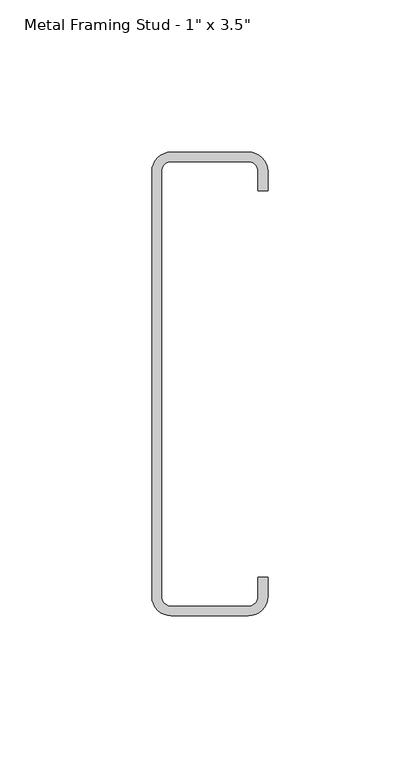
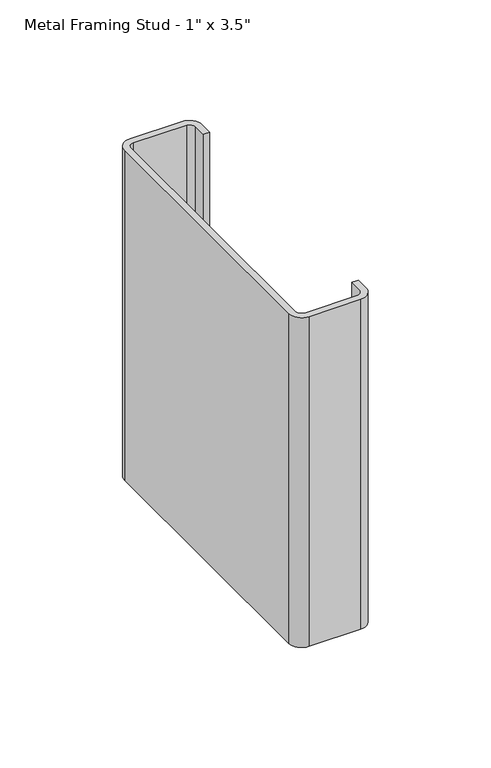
"""IFC4 building model written with IfcOpenShell, lengths in millimetres: proxy geometry."""

from ifc_helpers import new_model, si_unit, point, frame, frame_2d, origin, place, context, project, spatial, polyline, circle_curve, trimmed, segment, composite_curve, outline, extrude, source, transform, mapped, element, save


def proxy_e2cf066e(model_context):
    return source(origin(), model_context, "Body", "SweptSolid", [
        extrude(outline(composite_curve([segment(polyline([(19.05, 63.5), (15.875, 63.5), (15.875, 70.2679713)]), True, "CONTINUOUS"), segment(trimmed(circle_curve(frame_2d((12.7, 69.85)), 3.2023936), [point((15.875, 70.2679713))], [point((13.1179713, 73.025))], True, "CARTESIAN"), True, "CONTINUOUS"), segment(polyline([(13.1179713, 73.025), (-13.1179713, 73.025)]), True, "CONTINUOUS"), segment(trimmed(circle_curve(frame_2d((-12.7, 69.85)), 3.2023936), [point((-13.1179713, 73.025))], [point((-15.875, 70.2679713))], True, "CARTESIAN"), True, "CONTINUOUS"), segment(polyline([(-15.875, 70.2679713), (-15.875, -70.2679713)]), True, "CONTINUOUS"), segment(trimmed(circle_curve(frame_2d((-12.7, -69.85)), 3.2023936), [point((-15.875, -70.2679713))], [point((-13.1179713, -73.025))], True, "CARTESIAN"), True, "CONTINUOUS"), segment(polyline([(-13.1179713, -73.025), (13.1179713, -73.025)]), True, "CONTINUOUS"), segment(trimmed(circle_curve(frame_2d((12.7, -69.85)), 3.2023936), [point((13.1179713, -73.025))], [point((15.875, -70.2679713))], True, "CARTESIAN"), True, "CONTINUOUS"), segment(polyline([(15.875, -70.2679713), (15.875, -63.5), (19.05, -63.5), (19.05, -69.85)]), True, "CONTINUOUS"), segment(trimmed(circle_curve(frame_2d((12.7, -69.85)), 6.35), [point((19.05, -69.85))], [point((12.7, -76.2))], False, "CARTESIAN"), True, "CONTINUOUS"), segment(polyline([(12.7, -76.2), (-12.7, -76.2)]), True, "CONTINUOUS"), segment(trimmed(circle_curve(frame_2d((-12.7, -69.85)), 6.35), [point((-12.7, -76.2))], [point((-19.05, -69.85))], False, "CARTESIAN"), True, "CONTINUOUS"), segment(polyline([(-19.05, -69.85), (-19.05, 69.85)]), True, "CONTINUOUS"), segment(trimmed(circle_curve(frame_2d((-12.7, 69.85)), 6.35), [point((-19.05, 69.85))], [point((-12.7, 76.2))], False, "CARTESIAN"), True, "CONTINUOUS"), segment(polyline([(-12.7, 76.2), (12.7, 76.2)]), True, "CONTINUOUS"), segment(trimmed(circle_curve(frame_2d((12.7, 69.85)), 6.35), [point((12.7, 76.2))], [point((19.05, 69.85))], False, "CARTESIAN"), True, "CONTINUOUS"), segment(polyline([(19.05, 69.85), (19.05, 63.5)]), True, "CONTINUOUS")], self_intersect=False)), frame((0.0, 0.0, -304.8), z_axis=(0.0, 0.0, 1.0), x_axis=(1.0, 0.0, 0.0)), (0.0, 0.0, 1.0), 171.45),
    ])


if __name__ == "__main__":
    model = new_model("IFC4")
    model_context = context("Model", 3, world=origin())
    ifc_project = project(units=[si_unit("LENGTHUNIT", "METRE", prefix="MILLI")], contexts=[model_context])
    site = spatial("IfcSite", under=ifc_project)
    building = spatial("IfcBuilding", under=site)
    placement = place(None, origin())
    proxy_shape = proxy_e2cf066e(model_context)
    element("IfcBuildingElementProxy", 1, Name="CRAi Generic Model Metal Stud : Metal Framing Stud - 1\" x 3.5\"", ObjectType="CRAi Generic Model Metal Stud : Metal Framing Stud - 1\" x 3.5\"", at=placement, inside=building, context=model_context, shape_type="MappedRepresentation", body=[
        mapped(proxy_shape, transform((0.0, 0.0, 0.0), x_axis=(1.0, 0.0, 0.0), y_axis=(0.0, 1.0, 0.0), z_axis=(0.0, 0.0, 1.0))),
    ])
    save(model, "model.ifc")
